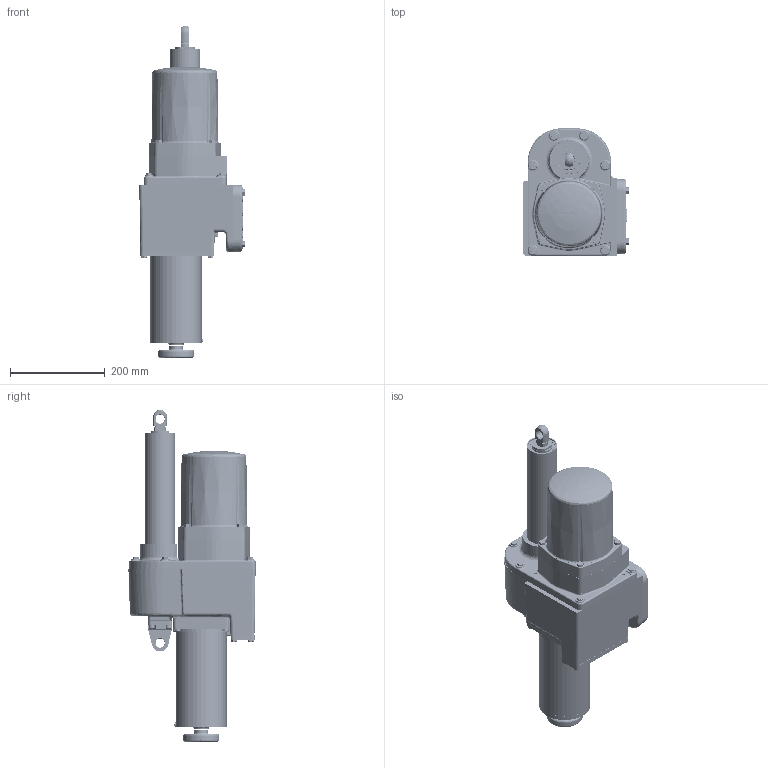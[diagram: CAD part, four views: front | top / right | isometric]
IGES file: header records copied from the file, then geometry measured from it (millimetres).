
Start section: SolidWorks IGES file using analytic representation for surfaces
Global section: file name: N:\Engineering\Product Support\Outline Dimension Models\42-1xx\IGES+STEP\18-4217-01_8_solid.IGS; native system: SolidWorks 2009; preprocessor: SolidWorks 2009; author: jmack; date: 110708.090645; units: inch
Bounding box: 222.58 x 268.45 x 700.3 mm (x, y, z)
Surface area: 1433727.8 mm2 (no closed solid volume)
Topology: 0 solids, 0 shells, 4096 faces, 51663 edges, 51339 vertices
Faces by surface type: revolution 2271, bspline 1825
